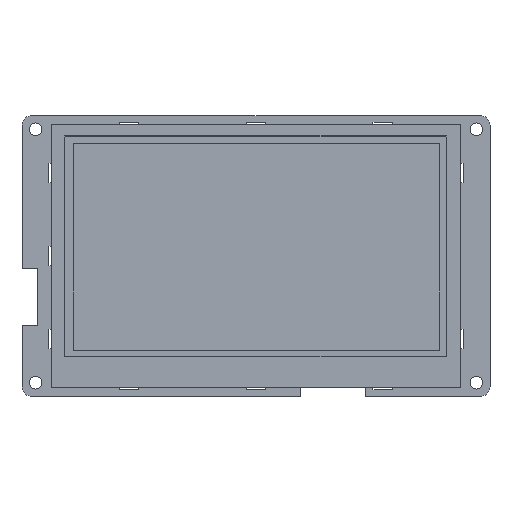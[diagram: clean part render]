
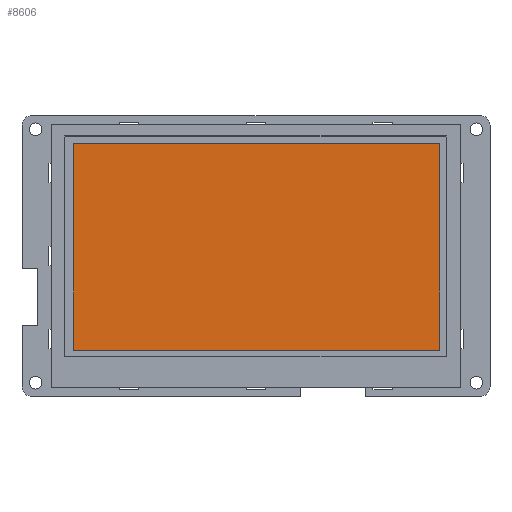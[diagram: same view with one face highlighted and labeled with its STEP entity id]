
A CAD part, top view. The second image highlights one B-rep face of the part: STEP entity #8606.
In plain terms, the highlighted planar face has unit normal (0, 0, 1).
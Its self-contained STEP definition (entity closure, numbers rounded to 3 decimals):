
#2664=DIRECTION('',(0.,-1.,0.));
#2665=VECTOR('',#2664,53.86);
#2666=CARTESIAN_POINT('',(-47.52,29.305,2.95));
#2667=LINE('',#2666,#2665);
#2668=DIRECTION('',(-1.,0.,0.));
#2669=VECTOR('',#2668,95.4);
#2670=CARTESIAN_POINT('',(47.88,29.305,2.95));
#2671=LINE('',#2670,#2669);
#2672=DIRECTION('',(0.,1.,0.));
#2673=VECTOR('',#2672,53.86);
#2674=CARTESIAN_POINT('',(47.88,-24.555,2.95));
#2675=LINE('',#2674,#2673);
#2676=DIRECTION('',(1.,0.,0.));
#2677=VECTOR('',#2676,95.4);
#2678=CARTESIAN_POINT('',(-47.52,-24.555,2.95));
#2679=LINE('',#2678,#2677);
#3142=CARTESIAN_POINT('',(-47.52,29.305,2.95));
#3143=CARTESIAN_POINT('',(-47.52,-24.555,2.95));
#3144=VERTEX_POINT('',#3142);
#3145=VERTEX_POINT('',#3143);
#3146=CARTESIAN_POINT('',(47.88,-24.555,2.95));
#3147=VERTEX_POINT('',#3146);
#3148=CARTESIAN_POINT('',(47.88,29.305,2.95));
#3149=VERTEX_POINT('',#3148);
#8595=CARTESIAN_POINT('',(-52.71,-33.535,2.95));
#8596=DIRECTION('',(0.,0.,1.));
#8597=DIRECTION('',(1.,0.,0.));
#8598=AXIS2_PLACEMENT_3D('',#8595,#8596,#8597);
#8599=PLANE('',#8598);
#8600=ORIENTED_EDGE('',*,*,#8547,.F.);
#8601=ORIENTED_EDGE('',*,*,#8562,.F.);
#8602=ORIENTED_EDGE('',*,*,#8576,.F.);
#8603=ORIENTED_EDGE('',*,*,#8589,.F.);
#8604=EDGE_LOOP('',(#8600,#8601,#8602,#8603));
#8605=FACE_OUTER_BOUND('',#8604,.F.);
#8547=EDGE_CURVE('',#3144,#3145,#2667,.T.);
#8562=EDGE_CURVE('',#3149,#3144,#2671,.T.);
#8576=EDGE_CURVE('',#3147,#3149,#2675,.T.);
#8589=EDGE_CURVE('',#3145,#3147,#2679,.T.);
#8606=ADVANCED_FACE('',(#8605),#8599,.T.);
